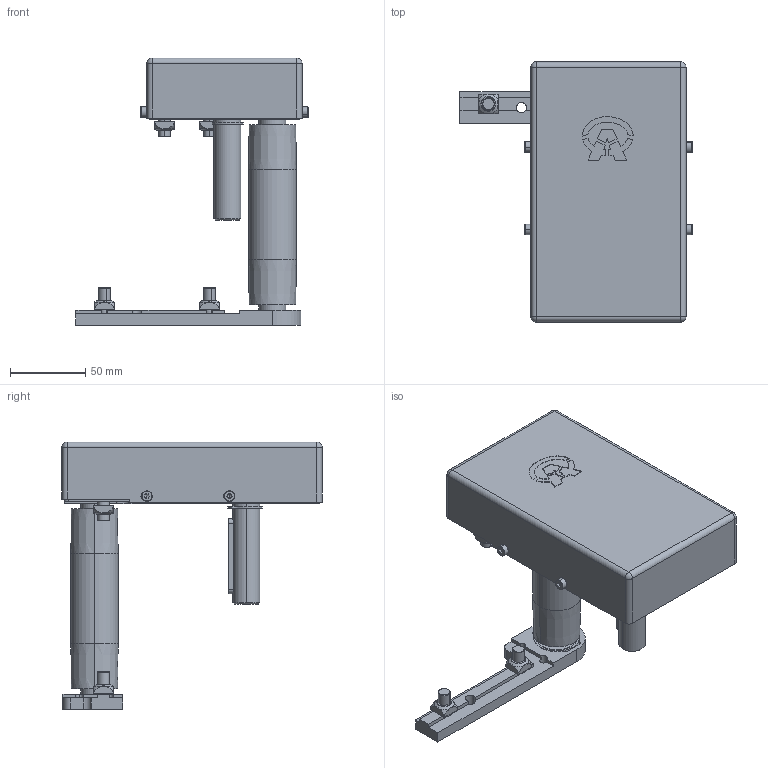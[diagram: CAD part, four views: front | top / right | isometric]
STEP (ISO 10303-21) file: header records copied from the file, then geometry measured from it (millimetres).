
FILE_DESCRIPTION (( 'STEP AP203' ), '1' );
FILE_NAME ('084.030.KT.44.100.STEP', '2019-07-29T09:54:35', ( '' ), ( '' ), 'SwSTEP 2.0', 'SolidWorks 2018', '' );
FILE_SCHEMA (( 'CONFIG_CONTROL_DESIGN' ));
Length unit declared in the file: millimetre
Products named in the file (19): 084.301.000 VITI ALUSIC_084.301.003; 084.801.030; 62012RSBOMB_62012RSBOMB; 084.801.032; 084.801.027 sx; 084.302.000 DADI ALUSIC 13x13-1_084.302.004; 084.801.053; 627.001.008; CUSCINETTI A SFERE INOX_608-2RS INOX; CHIAVETTE_A 6x6x50 UNI 6604-69; 627.001.015; ISO 4762 M4 x 12 --- 12S_ISO 4762 M4 x 12 --- 12S; Circlip DIN 471 - 18 x 1.2_Circlip DIN 471 - 18 x 1.2; 627.001.009; 084.801.054; 084.801.042; CHIAVETTE_A 4x4x10 UNI 6604-69; 084.030.KT.44.100; 627.005.003-1
Assembly tree (30 placements, depth 2):
  084.030.KT.44.100
    084.801.053
    627.005.003-1
    084.801.032
    084.801.042
    627.001.015
    627.001.009
    627.001.008
    084.801.030
    62012RSBOMB_62012RSBOMB  x2
    084.301.000 VITI ALUSIC_084.301.003  x4
    084.302.000 DADI ALUSIC 13x13-1_084.302.004  x4
    084.801.054
    084.801.027 sx
    CUSCINETTI A SFERE INOX_608-2RS INOX  x2
    Circlip DIN 471 - 18 x 1.2_Circlip DIN 471 - 18 x 1.2
    CHIAVETTE_A 6x6x50 UNI 6604-69
    CHIAVETTE_A 4x4x10 UNI 6604-69  x2
    ISO 4762 M4 x 12 --- 12S_ISO 4762 M4 x 12 --- 12S  x4
Bounding box: 154.75 x 173.5 x 178.5 mm (x, y, z)
Volume: 378451.1 mm3; surface area: 188836.5 mm2
Topology: 30 solids, 30 shells, 1768 faces, 4753 edges, 3065 vertices
Faces by surface type: plane 694, cylinder 654, cone 316, torus 64, bspline 24, sphere 16
Entity records: 42932 total; most frequent: CARTESIAN_POINT 7669, DIRECTION 7131, ORIENTED_EDGE 6850, EDGE_CURVE 3425, AXIS2_PLACEMENT_3D 2498, VERTEX_POINT 2250, VECTOR 2135, LINE 2135
